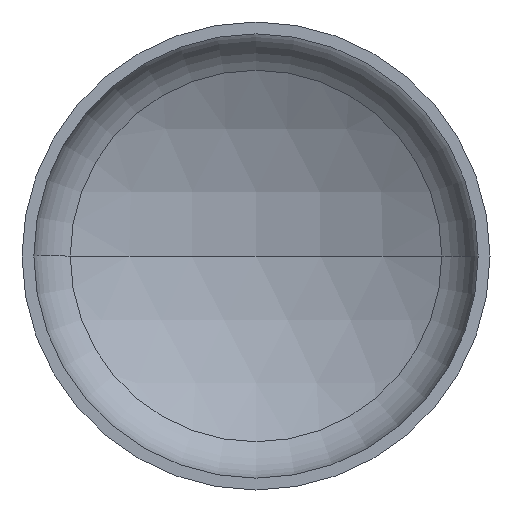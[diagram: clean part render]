
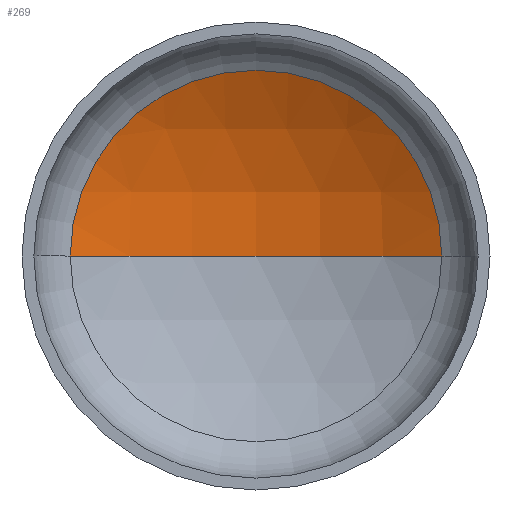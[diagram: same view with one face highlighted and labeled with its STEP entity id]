
A CAD part, front view. The second image highlights one B-rep face of the part: STEP entity #269.
In plain terms, the highlighted spherical face has radius 2720 mm.
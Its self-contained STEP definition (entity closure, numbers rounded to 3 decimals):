
#17 = ORIENTED_EDGE ( 'NONE', *, *, #84, .T. ) ;
#29 = AXIS2_PLACEMENT_3D ( 'NONE', #389, #351, #294 ) ;
#30 = AXIS2_PLACEMENT_3D ( 'NONE', #153, #359, #194 ) ;
#32 = AXIS2_PLACEMENT_3D ( 'NONE', #224, #392, #246 ) ;
#35 = CARTESIAN_POINT ( 'NONE',  ( 1349.467, 555.831, 0. ) ) ;
#36 = AXIS2_PLACEMENT_3D ( 'NONE', #199, #368, #156 ) ;
#66 = VERTEX_POINT ( 'NONE', #285 ) ;
#74 = EDGE_LOOP ( 'NONE', ( #96, #17, #89 ) ) ;
#80 = EDGE_CURVE ( 'NONE', #98, #66, #152, .T. ) ;
#84 = EDGE_CURVE ( 'NONE', #92, #98, #399, .T. ) ;
#89 = ORIENTED_EDGE ( 'NONE', *, *, #80, .T. ) ;
#92 = VERTEX_POINT ( 'NONE', #288 ) ;
#93 = EDGE_CURVE ( 'NONE', #92, #66, #204, .T. ) ;
#96 = ORIENTED_EDGE ( 'NONE', *, *, #93, .F. ) ;
#98 = VERTEX_POINT ( 'NONE', #35 ) ;
#152 = CIRCLE ( 'NONE', #36, 1349.467 ) ;
#153 = CARTESIAN_POINT ( 'NONE',  ( 0., -1805.808, 0. ) ) ;
#156 = DIRECTION ( 'NONE',  ( 1., 0., 0. ) ) ;
#194 = DIRECTION ( 'NONE',  ( 1., 0., 0. ) ) ;
#199 = CARTESIAN_POINT ( 'NONE',  ( 0., 555.831, 0. ) ) ;
#204 = CIRCLE ( 'NONE', #30, 2720. ) ;
#224 = CARTESIAN_POINT ( 'NONE',  ( 0., -1805.808, 0. ) ) ;
#246 = DIRECTION ( 'NONE',  ( -1., 0., 0. ) ) ;
#264 = FACE_OUTER_BOUND ( 'NONE', #74, .T. ) ;
#269 = ADVANCED_FACE ( 'NONE', ( #264 ), #374, .F. ) ;
#285 = CARTESIAN_POINT ( 'NONE',  ( -1349.467, 555.831, 0. ) ) ;
#288 = CARTESIAN_POINT ( 'NONE',  ( 0., 914.192, 0. ) ) ;
#294 = DIRECTION ( 'NONE',  ( -1., 0., 0. ) ) ;
#351 = DIRECTION ( 'NONE',  ( 0., 0., -1. ) ) ;
#359 = DIRECTION ( 'NONE',  ( 0., 0., 1. ) ) ;
#368 = DIRECTION ( 'NONE',  ( 0., -1., 0. ) ) ;
#374 = SPHERICAL_SURFACE ( 'NONE', #29, 2720. ) ;
#389 = CARTESIAN_POINT ( 'NONE',  ( 0., -1805.808, 0. ) ) ;
#392 = DIRECTION ( 'NONE',  ( 0., 0., -1. ) ) ;
#399 = CIRCLE ( 'NONE', #32, 2720. ) ;
